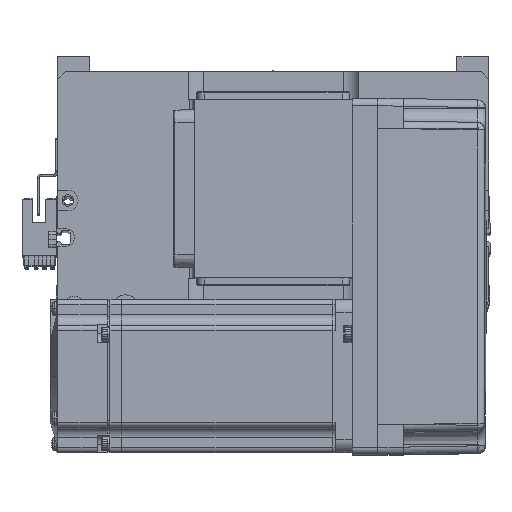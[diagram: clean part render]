
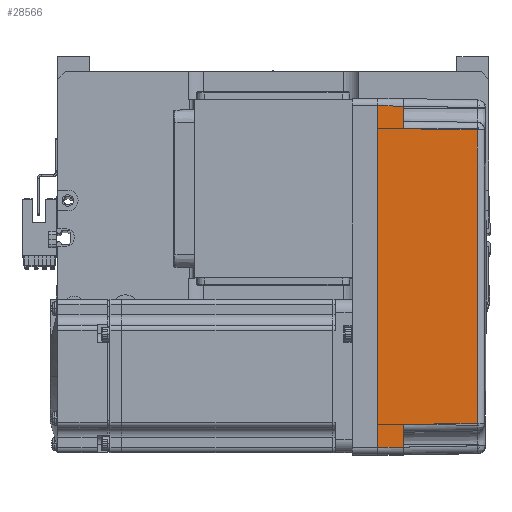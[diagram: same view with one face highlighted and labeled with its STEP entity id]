
A CAD part, top view. The second image highlights one B-rep face of the part: STEP entity #28566.
In plain terms, the highlighted planar face has unit normal (0.018, 0, 1) as drawn and (0, 1, 0.017) by its records, which use the part's own axes.
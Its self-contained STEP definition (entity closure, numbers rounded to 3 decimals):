
#581 = CARTESIAN_POINT ( 'NONE',  ( 57.495, 35.32, 38.985 ) ) ;
#2603 = DIRECTION ( 'NONE',  ( 1., 0., 0. ) ) ;
#2642 = DIRECTION ( 'NONE',  ( 0.017, -0.017, 1. ) ) ;
#3302 = CARTESIAN_POINT ( 'NONE',  ( -57.495, 35.32, 38.985 ) ) ;
#3515 = CARTESIAN_POINT ( 'NONE',  ( -19.165, 35.316, 39.181 ) ) ;
#3694 = LINE ( 'NONE', #54332, #15572 ) ;
#5499 = ORIENTED_EDGE ( 'NONE', *, *, #36394, .T. ) ;
#6766 = CARTESIAN_POINT ( 'NONE',  ( 70., 35.825, 10. ) ) ;
#7141 = DIRECTION ( 'NONE',  ( 0., 1., 0.017 ) ) ;
#7153 = VERTEX_POINT ( 'NONE', #53849 ) ;
#7949 = CARTESIAN_POINT ( 'NONE',  ( 57.495, 35.32, 38.985 ) ) ;
#8413 = EDGE_CURVE ( 'NONE', #60554, #39753, #31568, .T. ) ;
#8515 = CARTESIAN_POINT ( 'NONE',  ( 58., 35.825, 10. ) ) ;
#8703 = LINE ( 'NONE', #50133, #25752 ) ;
#11084 = DIRECTION ( 'NONE',  ( 1., 0., 0. ) ) ;
#11781 = VERTEX_POINT ( 'NONE', #39839 ) ;
#11784 = ORIENTED_EDGE ( 'NONE', *, *, #36593, .F. ) ;
#12291 = CARTESIAN_POINT ( 'NONE',  ( 0., 36., 0. ) ) ;
#15112 = DIRECTION ( 'NONE',  ( 0.017, 0.017, -1. ) ) ;
#15572 = VECTOR ( 'NONE', #31337, 1000. ) ;
#15694 = ORIENTED_EDGE ( 'NONE', *, *, #25812, .T. ) ;
#16981 = B_SPLINE_CURVE_WITH_KNOTS ( 'NONE', 3,
 ( #3302, #3515, #55503, #59479 ),
 .UNSPECIFIED., .F., .F.,
 ( 4, 4 ),
 ( 0., 1. ),
 .UNSPECIFIED. ) ;
#19608 = VERTEX_POINT ( 'NONE', #8515 ) ;
#20661 = EDGE_CURVE ( 'NONE', #11781, #32517, #16981, .T. ) ;
#20815 = ORIENTED_EDGE ( 'NONE', *, *, #8413, .T. ) ;
#20987 = DIRECTION ( 'NONE',  ( 1., 0., 0. ) ) ;
#21276 = VECTOR ( 'NONE', #38487, 1000. ) ;
#21991 = ORIENTED_EDGE ( 'NONE', *, *, #24635, .F. ) ;
#23029 = CARTESIAN_POINT ( 'NONE',  ( 66.826, 35.825, 10. ) ) ;
#24150 = VERTEX_POINT ( 'NONE', #41030 ) ;
#24306 = LINE ( 'NONE', #581, #46601 ) ;
#24635 = EDGE_CURVE ( 'NONE', #7153, #24150, #43249, .T. ) ;
#25627 = EDGE_LOOP ( 'NONE', ( #5499, #20815, #36835, #55031, #54591, #15694, #11784, #21991 ) ) ;
#25752 = VECTOR ( 'NONE', #2642, 1000. ) ;
#25759 = CARTESIAN_POINT ( 'NONE',  ( 70., 35.825, 10. ) ) ;
#25812 = EDGE_CURVE ( 'NONE', #19608, #25977, #33429, .T. ) ;
#25896 = VECTOR ( 'NONE', #11084, 1000. ) ;
#25977 = VERTEX_POINT ( 'NONE', #23029 ) ;
#26796 = EDGE_CURVE ( 'NONE', #32517, #19608, #24306, .T. ) ;
#27245 = LINE ( 'NONE', #40999, #21276 ) ;
#28566 = ADVANCED_FACE ( 'NONE', ( #58340 ), #58604, .T. ) ;
#28649 = AXIS2_PLACEMENT_3D ( 'NONE', #35795, #7141, #59005 ) ;
#30792 = VECTOR ( 'NONE', #2603, 1000. ) ;
#31337 = DIRECTION ( 'NONE',  ( 0.017, -0.017, 1. ) ) ;
#31568 = LINE ( 'NONE', #6766, #30792 ) ;
#32517 = VERTEX_POINT ( 'NONE', #7949 ) ;
#33429 = LINE ( 'NONE', #25759, #25896 ) ;
#35795 = CARTESIAN_POINT ( 'NONE',  ( 70., 36., 0. ) ) ;
#36394 = EDGE_CURVE ( 'NONE', #7153, #60554, #8703, .T. ) ;
#36593 = EDGE_CURVE ( 'NONE', #24150, #25977, #27245, .T. ) ;
#36835 = ORIENTED_EDGE ( 'NONE', *, *, #40543, .T. ) ;
#38487 = DIRECTION ( 'NONE',  ( -0.017, -0.017, 1. ) ) ;
#39753 = VERTEX_POINT ( 'NONE', #52969 ) ;
#39839 = CARTESIAN_POINT ( 'NONE',  ( -57.495, 35.32, 38.985 ) ) ;
#40543 = EDGE_CURVE ( 'NONE', #39753, #11781, #3694, .T. ) ;
#40999 = CARTESIAN_POINT ( 'NONE',  ( 67.001, 36.001, -0.052 ) ) ;
#41030 = CARTESIAN_POINT ( 'NONE',  ( 67., 36., 0. ) ) ;
#43249 = LINE ( 'NONE', #12291, #43964 ) ;
#43964 = VECTOR ( 'NONE', #20987, 1000. ) ;
#46601 = VECTOR ( 'NONE', #15112, 1000. ) ;
#50133 = CARTESIAN_POINT ( 'NONE',  ( -67., 36., 0. ) ) ;
#50251 = CARTESIAN_POINT ( 'NONE',  ( -66.826, 35.825, 10. ) ) ;
#52969 = CARTESIAN_POINT ( 'NONE',  ( -58., 35.825, 10. ) ) ;
#53849 = CARTESIAN_POINT ( 'NONE',  ( -67., 36., 0. ) ) ;
#54332 = CARTESIAN_POINT ( 'NONE',  ( -58., 35.825, 10. ) ) ;
#54591 = ORIENTED_EDGE ( 'NONE', *, *, #26796, .T. ) ;
#55031 = ORIENTED_EDGE ( 'NONE', *, *, #20661, .T. ) ;
#55503 = CARTESIAN_POINT ( 'NONE',  ( 19.165, 35.316, 39.181 ) ) ;
#58340 = FACE_OUTER_BOUND ( 'NONE', #25627, .T. ) ;
#58604 = PLANE ( 'NONE',  #28649 ) ;
#59005 = DIRECTION ( 'NONE',  ( 0., -0.017, 1. ) ) ;
#59479 = CARTESIAN_POINT ( 'NONE',  ( 57.495, 35.32, 38.985 ) ) ;
#60554 = VERTEX_POINT ( 'NONE', #50251 ) ;
